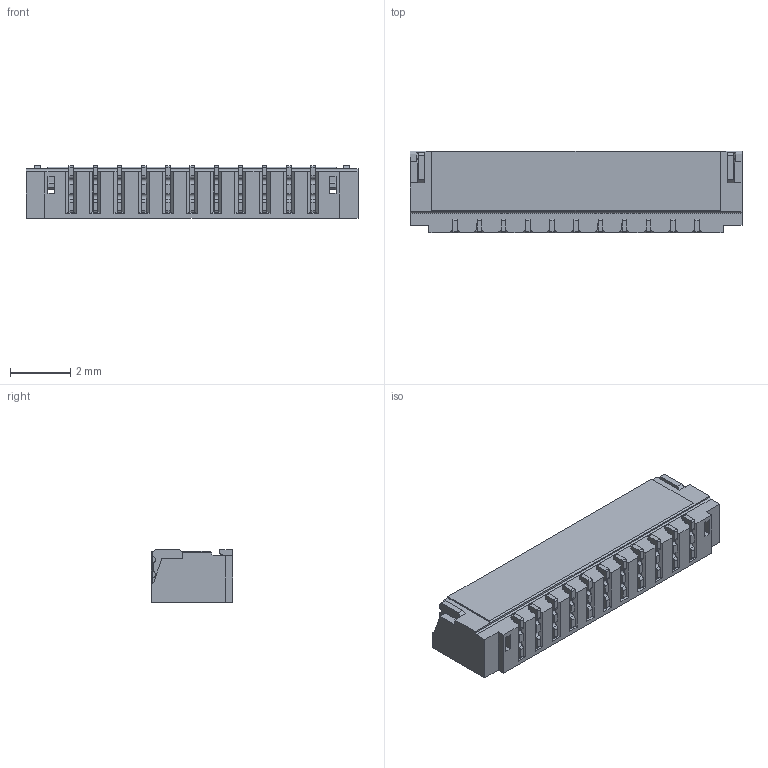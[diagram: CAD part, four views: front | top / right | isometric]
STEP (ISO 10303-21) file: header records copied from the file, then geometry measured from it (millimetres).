
FILE_DESCRIPTION((''),'2;1');
FILE_NAME('S-88460-11XX-XX-MX','2011-10-11T',('ouchwu'),(''),'PRO/ENGINEER BY PARAMETRIC TECHNOLOGY CORPORATION, 2007450','PRO/ENGINEER BY PARAMETRIC TECHNOLOGY CORPORATION, 2007450','');
FILE_SCHEMA(('CONFIG_CONTROL_DESIGN'));
Length unit declared in the file: millimetre
Products named in the file (1): S-88460-11XX-XX-MX
Bounding box: 10.98 x 2.7 x 1.75 mm (x, y, z)
Volume: 28.5 mm3; surface area: 189.6 mm2
Topology: 1 solids, 1 shells, 926 faces, 2735 edges, 1771 vertices
Faces by surface type: plane 642, cylinder 284
Entity records: 30862 total; most frequent: CARTESIAN_POINT 5569, ORIENTED_EDGE 5470, DIRECTION 5168, EDGE_CURVE 2735, VECTOR 2080, LINE 2080, VERTEX_POINT 1771, AXIS2_PLACEMENT_3D 1544
